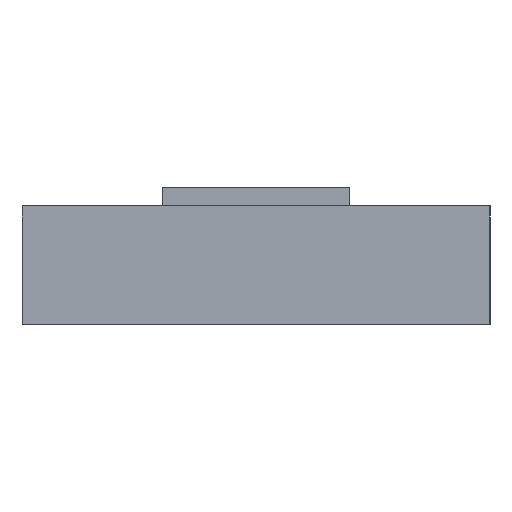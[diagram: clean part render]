
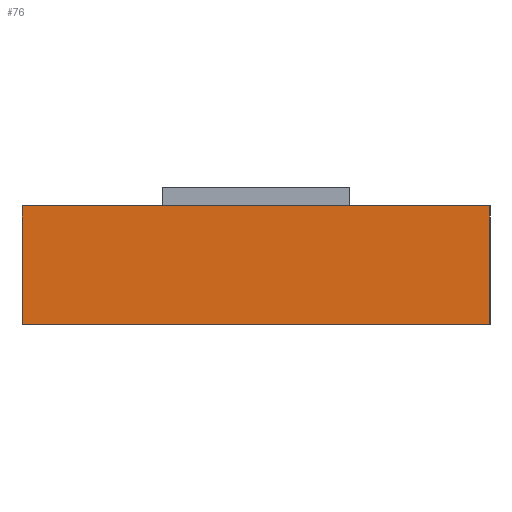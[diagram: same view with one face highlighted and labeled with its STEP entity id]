
A CAD part, left-side view. The second image highlights one B-rep face of the part: STEP entity #76.
In plain terms, the highlighted planar face has unit normal (-1, 0, 0).
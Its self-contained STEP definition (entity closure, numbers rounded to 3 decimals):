
#76=ADVANCED_FACE('',(#234),#236,.T.);
#234=FACE_BOUND('',#235,.T.);
#235=EDGE_LOOP('',(#364,#365,#366,#367,#368,#369));
#236=PLANE('',#237);
#237=AXIS2_PLACEMENT_3D('',#238,#239,#240);
#238=CARTESIAN_POINT('',(-2.5,1.25,0.));
#239=DIRECTION('',(-1.,0.,0.));
#240=DIRECTION('',(0.,-1.,0.));
#364=ORIENTED_EDGE('',*,*,#450,.F.);
#365=ORIENTED_EDGE('',*,*,#439,.F.);
#366=ORIENTED_EDGE('',*,*,#451,.F.);
#367=ORIENTED_EDGE('',*,*,#452,.T.);
#368=ORIENTED_EDGE('',*,*,#453,.T.);
#369=ORIENTED_EDGE('',*,*,#443,.F.);
#439=EDGE_CURVE('',#487,#489,#490,.T.);
#443=EDGE_CURVE('',#495,#497,#498,.T.);
#450=EDGE_CURVE('',#489,#495,#508,.F.);
#451=EDGE_CURVE('',#509,#487,#510,.T.);
#452=EDGE_CURVE('',#509,#511,#512,.T.);
#453=EDGE_CURVE('',#511,#497,#513,.T.);
#487=VERTEX_POINT('',#567);
#489=VERTEX_POINT('',#571);
#490=LINE('',#572,#573);
#495=VERTEX_POINT('',#583);
#497=VERTEX_POINT('',#587);
#498=LINE('',#588,#589);
#508=LINE('',#612,#613);
#509=VERTEX_POINT('',#615);
#510=LINE('',#616,#617);
#511=VERTEX_POINT('',#619);
#512=LINE('',#620,#621);
#513=LINE('',#623,#624);
#567=CARTESIAN_POINT('',(-2.5,1.25,0.635));
#571=CARTESIAN_POINT('',(-2.5,0.5,0.635));
#572=CARTESIAN_POINT('',(-2.5,1.25,0.635));
#573=VECTOR('',#574,1.);
#574=DIRECTION('',(0.,-1.,0.));
#583=CARTESIAN_POINT('',(-2.5,-0.5,0.635));
#587=CARTESIAN_POINT('',(-2.5,-1.25,0.635));
#588=CARTESIAN_POINT('',(-2.5,-0.5,0.635));
#589=VECTOR('',#590,1.);
#590=DIRECTION('',(0.,-1.,0.));
#612=CARTESIAN_POINT('',(-2.5,-0.5,0.635));
#613=VECTOR('',#614,1.);
#614=DIRECTION('',(0.,1.,0.));
#615=CARTESIAN_POINT('',(-2.5,1.25,0.));
#616=CARTESIAN_POINT('',(-2.5,1.25,0.));
#617=VECTOR('',#618,1.);
#618=DIRECTION('',(0.,0.,1.));
#619=CARTESIAN_POINT('',(-2.5,-1.25,0.));
#620=CARTESIAN_POINT('',(-2.5,1.25,0.));
#621=VECTOR('',#622,1.);
#622=DIRECTION('',(0.,-1.,0.));
#623=CARTESIAN_POINT('',(-2.5,-1.25,0.));
#624=VECTOR('',#625,1.);
#625=DIRECTION('',(0.,0.,1.));
